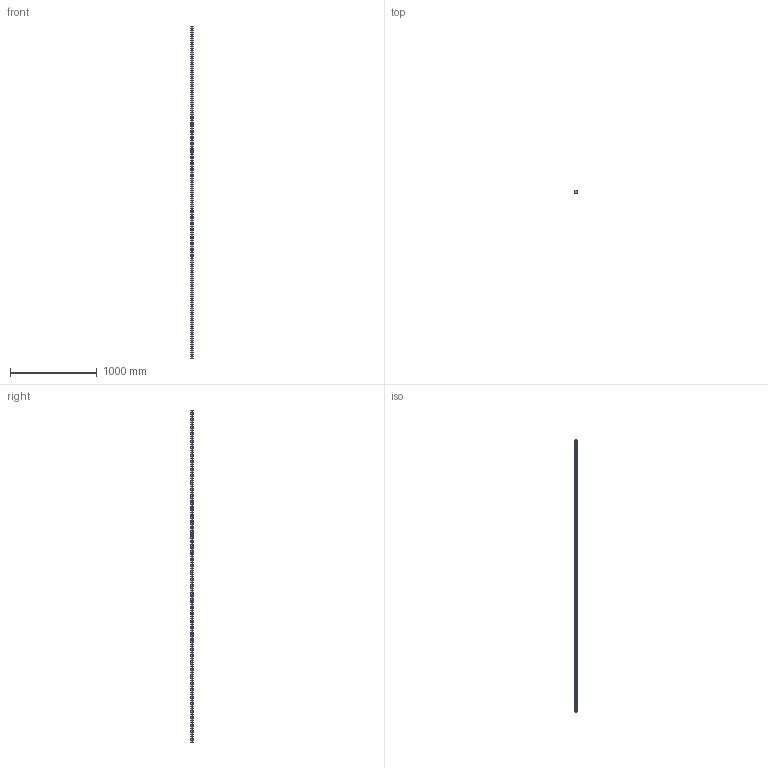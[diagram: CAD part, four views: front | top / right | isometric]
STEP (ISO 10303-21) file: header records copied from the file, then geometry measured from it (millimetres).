
FILE_DESCRIPTION((''),'2;1');
FILE_NAME('R160530431_3836_ASM','2018-08-08T15:45:07',('ac91sw'),(''),'CREO PARAMETRIC BY PTC INC, 2017260','CREO PARAMETRIC BY PTC INC, 2017260','');
FILE_SCHEMA(('CONFIG_CONTROL_DESIGN'));
Length unit declared in the file: millimetre
Products named in the file (3): R160530431_3836_ADK; R160530431_3836_1; R160530431_3836_ASM
Assembly tree (49 placements, depth 2):
  R160530431_3836_ASM
    R160530431_3836_ADK  x48
    R160530431_3836_1
Bounding box: 34 x 31.85 x 3836 mm (x, y, z)
Volume: 3292846.2 mm3; surface area: 598027.7 mm2
Topology: 49 solids, 49 shells, 464 faces, 954 edges, 636 vertices
Faces by surface type: cylinder 292, plane 172
Entity records: 8968 total; most frequent: DIRECTION 1724, CARTESIAN_POINT 1448, ORIENTED_EDGE 1344, AXIS2_PLACEMENT_3D 724, EDGE_CURVE 672, VERTEX_POINT 448, EDGE_LOOP 420, CIRCLE 396
